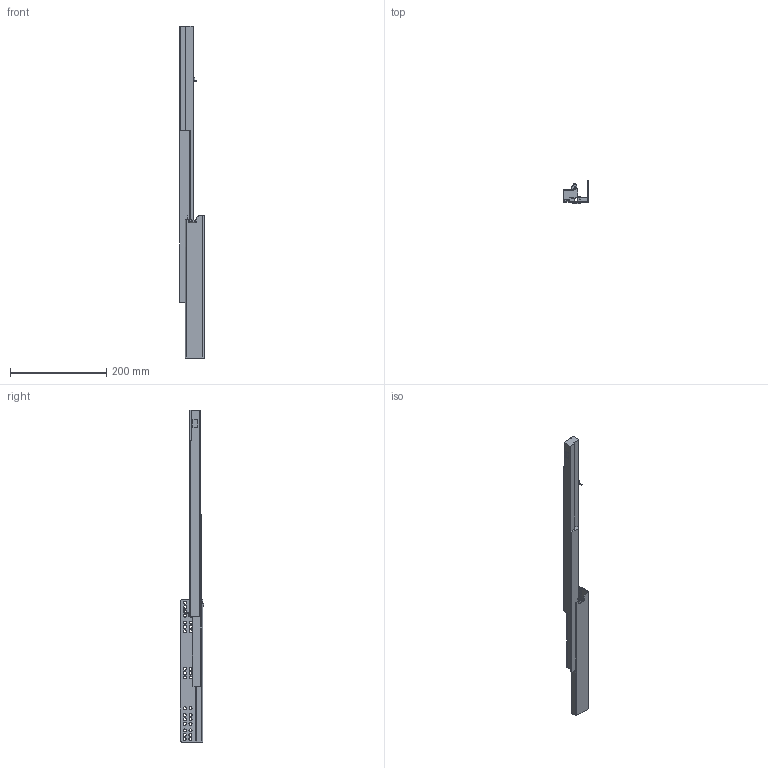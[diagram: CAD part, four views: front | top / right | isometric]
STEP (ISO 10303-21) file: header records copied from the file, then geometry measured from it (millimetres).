
FILE_DESCRIPTION (( 'STEP AP203' ), '1' );
FILE_NAME ('TS10450H-R-DTC3D-open.STEP', '2021-07-09T05:17:36', ( 'df' ), ( 'Microsoft' ), 'SwSTEP 2.0', 'SolidWorks 2018', '' );
FILE_SCHEMA (( 'CONFIG_CONTROL_DESIGN' ));
Length unit declared in the file: millimetre
Products named in the file (1): TS10450H-R-DTC3D-open
Bounding box: 51.73 x 48 x 689.3 mm (x, y, z)
Volume: 418611.2 mm3; surface area: 109934.4 mm2
Topology: 1 solids, 1 shells, 261 faces, 731 edges, 477 vertices
Faces by surface type: cylinder 124, plane 99, bspline 18, torus 16, sphere 4
Entity records: 9375 total; most frequent: CARTESIAN_POINT 2363, ORIENTED_EDGE 1454, DIRECTION 1442, EDGE_CURVE 727, AXIS2_PLACEMENT_3D 526, VERTEX_POINT 477, VECTOR 390, LINE 390
